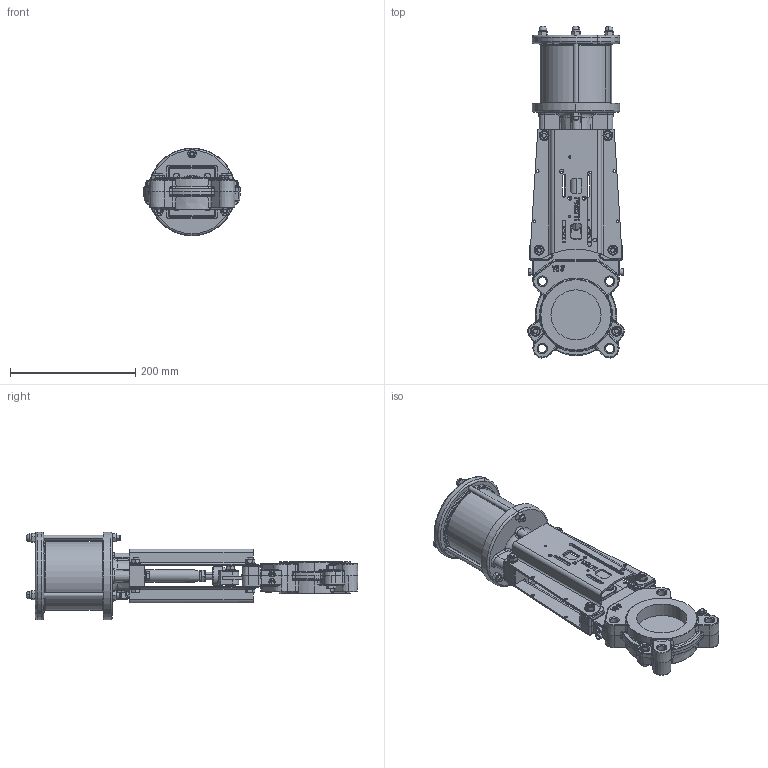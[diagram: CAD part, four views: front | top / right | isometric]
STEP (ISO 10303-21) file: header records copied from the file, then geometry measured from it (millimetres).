
FILE_DESCRIPTION (( 'STEP AP214' ), '1' );
FILE_NAME ('VSC DN 0080.STEP', '2015-09-23T11:03:59', ( 'admin' ), ( 'Hewlett-Packard Company' ), 'SwSTEP 2.0', 'SolidWorks 2013', '' );
FILE_SCHEMA (( 'AUTOMOTIVE_DESIGN' ));
Length unit declared in the file: millimetre
Products named in the file (1): VSC DN 0080
Bounding box: 154 x 530.36 x 140 mm (x, y, z)
Volume: 1876440.9 mm3; surface area: 489922.1 mm2
Topology: 52 solids, 57 shells, 2315 faces, 5591 edges, 3347 vertices
Faces by surface type: plane 794, cylinder 658, cone 468, bspline 200, torus 183, sphere 12
Entity records: 104132 total; most frequent: CARTESIAN_POINT 25308, DIRECTION 11049, ORIENTED_EDGE 11006, EDGE_CURVE 5503, AXIS2_PLACEMENT_3D 4393, VERTEX_POINT 3341, EDGE_LOOP 2578, UNCERTAINTY_MEASURE_WITH_UNIT 2369
